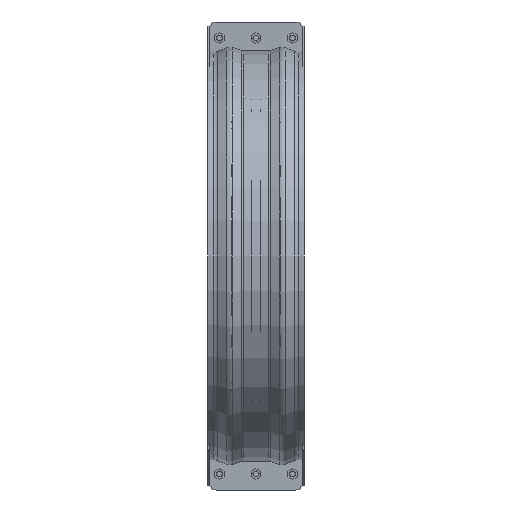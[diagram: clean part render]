
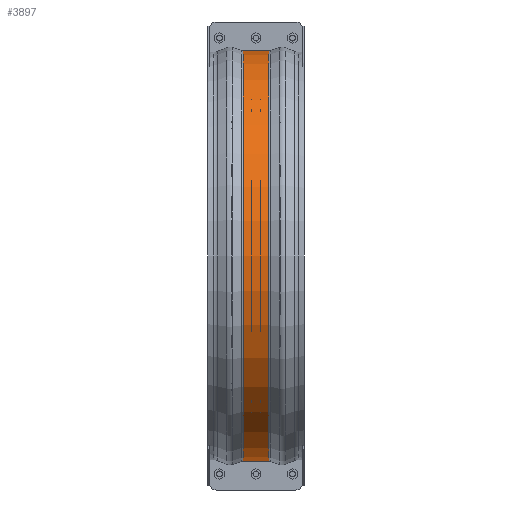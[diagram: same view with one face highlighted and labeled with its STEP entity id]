
A CAD part, front view. The second image highlights one B-rep face of the part: STEP entity #3897.
In plain terms, the highlighted cylindrical face has radius 540.449 mm (diameter 1080.9 mm), a partial arc.
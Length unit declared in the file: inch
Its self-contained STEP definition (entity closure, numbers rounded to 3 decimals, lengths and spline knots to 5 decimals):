
#360=FACE_OUTER_BOUND('',#577,.T.);
#577=EDGE_LOOP('',(#2941,#2942,#2943,#2944));
#875=LINE('',#6055,#1232);
#880=LINE('',#6193,#1237);
#1232=VECTOR('',#4833,0.3937);
#1237=VECTOR('',#4890,0.3937);
#1471=CIRCLE('',#4177,21.27751);
#1473=CIRCLE('',#4181,21.27751);
#1732=VERTEX_POINT('',#6047);
#1733=VERTEX_POINT('',#6054);
#1748=VERTEX_POINT('',#6178);
#1750=VERTEX_POINT('',#6191);
#2167=EDGE_CURVE('',#1733,#1732,#875,.T.);
#2192=EDGE_CURVE('',#1748,#1733,#1471,.T.);
#2196=EDGE_CURVE('',#1750,#1732,#1473,.T.);
#2197=EDGE_CURVE('',#1750,#1748,#880,.T.);
#2941=ORIENTED_EDGE('',*,*,#2167,.T.);
#2942=ORIENTED_EDGE('',*,*,#2196,.F.);
#2943=ORIENTED_EDGE('',*,*,#2197,.T.);
#2944=ORIENTED_EDGE('',*,*,#2192,.T.);
#3574=CYLINDRICAL_SURFACE('',#4180,21.27751);
#3897=ADVANCED_FACE('',(#360),#3574,.T.);
#4177=AXIS2_PLACEMENT_3D('',#6179,#4879,#4880);
#4180=AXIS2_PLACEMENT_3D('',#6190,#4886,#4887);
#4181=AXIS2_PLACEMENT_3D('',#6192,#4888,#4889);
#4833=DIRECTION('',(1.,0.,0.));
#4879=DIRECTION('center_axis',(1.,0.,0.));
#4880=DIRECTION('ref_axis',(0.,0.,-1.));
#4886=DIRECTION('center_axis',(1.,0.,0.));
#4887=DIRECTION('ref_axis',(0.,-1.,0.));
#4888=DIRECTION('center_axis',(1.,0.,0.));
#4889=DIRECTION('ref_axis',(0.,0.,-1.));
#4890=DIRECTION('',(-1.,0.,0.));
#6047=CARTESIAN_POINT('',(1.31451,-0.375,-21.27421));
#6054=CARTESIAN_POINT('',(-1.31451,-0.375,-21.27421));
#6055=CARTESIAN_POINT('',(0.,-0.375,-21.27421));
#6178=CARTESIAN_POINT('',(-1.31451,-0.375,21.27421));
#6179=CARTESIAN_POINT('Origin',(-1.31451,0.,0.));
#6190=CARTESIAN_POINT('Origin',(0.,0.,0.));
#6191=CARTESIAN_POINT('',(1.31451,-0.375,21.27421));
#6192=CARTESIAN_POINT('Origin',(1.31451,0.,0.));
#6193=CARTESIAN_POINT('',(0.,-0.375,21.27421));
